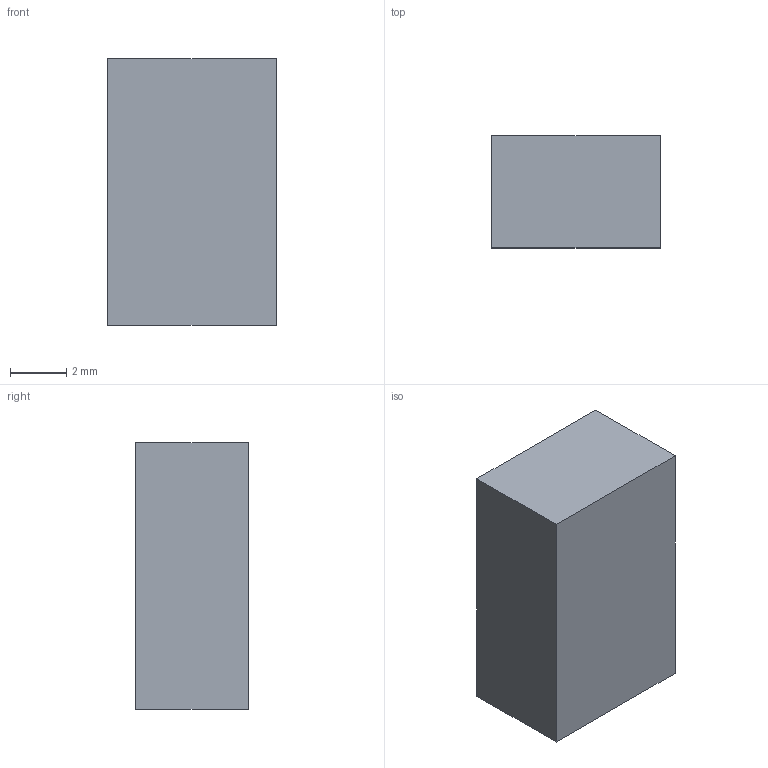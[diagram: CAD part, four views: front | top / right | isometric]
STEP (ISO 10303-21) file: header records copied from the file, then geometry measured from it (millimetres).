
FILE_DESCRIPTION(('Open CASCADE Model'),'2;1');
FILE_NAME('Open CASCADE Shape Model','2026-11-24T19:57:39',('Author'),( 'Open CASCADE'),'Open CASCADE STEP processor 7.8','Open CASCADE 7.8' ,'Unknown');
FILE_SCHEMA(('AUTOMOTIVE_DESIGN { 1 0 10303 214 1 1 1 1 }'));
Length unit declared in the file: millimetre
Products named in the file (1): Open CASCADE STEP translator 7.8 106
Bounding box: 6 x 4 x 9.5 mm (x, y, z)
Volume: 228 mm3; surface area: 238 mm2
Topology: 1 solids, 1 shells, 6 faces, 12 edges, 8 vertices
Faces by surface type: plane 6
Entity records: 322 total; most frequent: CARTESIAN_POINT 51, DIRECTION 50, LINE 36, VECTOR 36, ORIENTED_EDGE 24, PCURVE 24, DEFINITIONAL_REPRESENTATION 24, EDGE_CURVE 12
